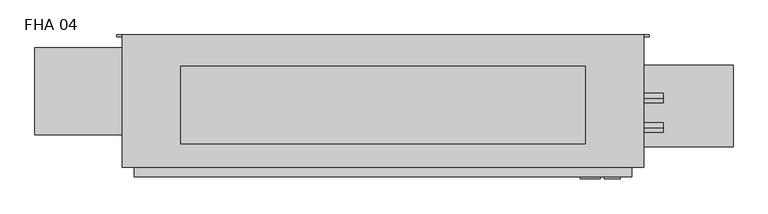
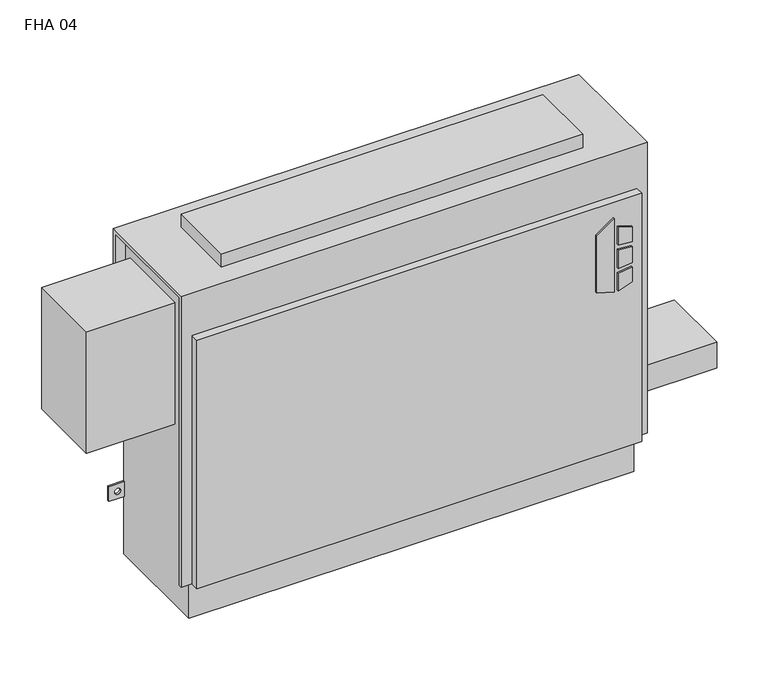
"""IFC4 building model written with IfcOpenShell, lengths in millimetres: proxy geometry, Vertical_Fan_Coil_Unit_-_FHA_-_IEC_-_2-Pipe_TS-FR_RH_2022 : FHA 04."""

from ifc_helpers import new_model, si_unit, point, frame, frame_2d, origin, place, context, project, spatial, polyline, circle_curve, trimmed, segment, composite_curve, outline, extrude, source, transform, mapped, element, save
from ifc_brep_helpers import plane_surface, revolved_surface, advanced_brep


def fha_04_8b7462a0(model_context):
    return source(origin(), model_context, "Body", "SolidModel", [
        extrude(outline(polyline([(391.6086829, 474.7368862), (381.6606126, 506.9102728), (523.831537, 506.9102728), (500.8095309, 474.7368862), (391.6086829, 474.7368862)])), frame((0.0, 9.525, 0.0), z_axis=(0.0, 1.0, 0.0), x_axis=(0.0, 0.0, 1.0)), (0.0, 0.0, 1.0), 3.175),
        extrude(outline(polyline([(470.6079683, 513.6686058), (467.4055757, 539.75), (496.6344168, 539.75), (504.6988318, 513.6686058), (470.6079683, 513.6686058)])), frame((0.0, 9.525, 0.0), z_axis=(0.0, 1.0, 0.0), x_axis=(0.0, 0.0, 1.0)), (0.0, 0.0, 1.0), 3.175),
        extrude(outline(polyline([(418.7444414, 539.75), (415.0789404, 513.6686058), (381.6606126, 513.6686058), (390.2948498, 539.75), (418.7444414, 539.75)])), frame((0.0, 9.525, 0.0), z_axis=(0.0, 1.0, 0.0), x_axis=(0.0, 0.0, 1.0)), (0.0, 0.0, 1.0), 3.175),
        extrude(outline(polyline([(458.0596028, 539.75), (460.3414292, 513.6686058), (424.4038806, 513.6686058), (427.1451456, 539.75), (458.0596028, 539.75)])), frame((0.0, 9.525, 0.0), z_axis=(0.0, 1.0, 0.0), x_axis=(0.0, 0.0, 1.0)), (0.0, 0.0, 1.0), 3.175),
        extrude(outline(composite_curve([segment(trimmed(circle_curve(frame_2d((622.3, 128.5875)), 9.525), [point((612.775, 128.5875))], [point((631.825, 128.5875))], False, "CARTESIAN"), True, "CONTINUOUS"), segment(trimmed(circle_curve(frame_2d((622.3, 128.5875)), 9.525), [point((631.825, 128.5875))], [point((612.775, 128.5875))], False, "CARTESIAN"), True, "CONTINUOUS")], self_intersect=False)), frame((0.0, 0.0, 101.6), z_axis=(0.0, 0.0, 1.0), x_axis=(1.0, 0.0, 0.0)), (0.0, 0.0, 1.0), 25.4),
        extrude(outline(polyline([(723.9, 195.2625), (723.9, 61.9125), (558.8, 61.9125), (558.8, 195.2625), (723.9, 195.2625)])), frame((0.0, 0.0, 127.0), z_axis=(0.0, 0.0, 1.0), x_axis=(1.0, 0.0, 0.0)), (0.0, 0.0, 1.0), 50.8),
        extrude(outline(polyline([(482.6, 193.675), (482.6, 66.675), (-177.8, 66.675), (-177.8, 193.675), (482.6, 193.675)])), frame((0.0, 0.0, 635.0), z_axis=(0.0, 0.0, 1.0), x_axis=(1.0, 0.0, 0.0)), (0.0, 0.0, 1.0), 25.4),
        extrude(outline(composite_curve([segment(trimmed(circle_curve(frame_2d((93.1926, 488.0102)), 7.9375), [point((93.1926, 480.0727))], [point((93.1926, 495.9477))], False, "CARTESIAN"), True, "CONTINUOUS"), segment(trimmed(circle_curve(frame_2d((93.1926, 488.0102)), 7.9375), [point((93.1926, 495.9477))], [point((93.1926, 480.0727))], False, "CARTESIAN"), True, "CONTINUOUS")], self_intersect=False)), frame((558.8, 0.0, 0.0), z_axis=(1.0, 0.0, 0.0), x_axis=(0.0, 1.0, 0.0)), (0.0, 0.0, 1.0), 50.8),
        extrude(outline(composite_curve([segment(trimmed(circle_curve(frame_2d((141.3002, 461.3402)), 7.9375), [point((141.3002, 453.4027))], [point((141.3002, 469.2777))], False, "CARTESIAN"), True, "CONTINUOUS"), segment(trimmed(circle_curve(frame_2d((141.3002, 461.3402)), 7.9375), [point((141.3002, 469.2777))], [point((141.3002, 453.4027))], False, "CARTESIAN"), True, "CONTINUOUS")], self_intersect=False)), frame((558.8, 0.0, 0.0), z_axis=(1.0, 0.0, 0.0), x_axis=(0.0, 1.0, 0.0)), (0.0, 0.0, 1.0), 50.8),
        extrude(outline(polyline([(-415.925, 223.266), (-254.0, 223.266), (-254.0, 81.534), (-415.925, 81.534), (-415.925, 223.266)])), frame((0.0, 0.0, 349.25), z_axis=(0.0, 0.0, 1.0), x_axis=(1.0, 0.0, 0.0)), (0.0, 0.0, 1.0), 234.95),
        advanced_brep(
        [(577.85, 244.475, 635.0), (-273.05, 244.475, 635.0), (-273.05, 28.575, 635.0), (577.85, 28.575, 635.0), (-254.0, 244.475, 0.0), (558.8, 244.475, 0.0), (558.8, 38.1, 0.0), (-254.0, 38.1, 0.0), (577.85, 244.475, 558.8), (558.8, 244.475, 558.8), (558.8, 244.475, 414.3375), (587.375, 244.475, 414.3375), (587.375, 244.475, 385.7625), (558.8, 244.475, 385.7625), (558.8, 244.475, 287.3375), (587.375, 244.475, 287.3375), (587.375, 244.475, 258.7625), (558.8, 244.475, 258.7625), (558.8, 244.475, 141.2875), (587.375, 244.475, 141.2875), (587.375, 244.475, 112.7125), (558.8, 244.475, 112.7125), (-254.0, 244.475, 112.7125), (-282.575, 244.475, 112.7125), (-282.575, 244.475, 141.2875), (-254.0, 244.475, 141.2875), (-254.0, 244.475, 258.7625), (-282.575, 244.475, 258.7625), (-282.575, 244.475, 287.3375), (-254.0, 244.475, 287.3375), (-254.0, 244.475, 385.7625), (-282.575, 244.475, 385.7625), (-282.575, 244.475, 414.3375), (-254.0, 244.475, 414.3375), (-254.0, 244.475, 558.8), (-273.05, 244.475, 558.8), (577.0626, 244.475, 127.0), (565.9374, 244.475, 127.0), (-261.1374, 244.475, 127.0), (-272.2626, 244.475, 127.0), (577.0626, 244.475, 273.05), (565.9374, 244.475, 273.05), (-261.1374, 244.475, 273.05), (-272.2626, 244.475, 273.05), (577.0626, 244.475, 400.05), (565.9374, 244.475, 400.05), (-261.1374, 244.475, 400.05), (-272.2626, 244.475, 400.05), (-273.05, 238.125, 558.8), (-273.05, 238.125, 628.65), (-273.05, 34.925, 628.65), (-273.05, 34.925, 73.025), (-273.05, 28.575, 73.025), (558.8, 12.7, 552.45), (-254.0, 12.7, 552.45), (-254.0, 12.7, 73.025), (558.8, 12.7, 73.025), (577.85, 28.575, 73.025), (577.85, 34.925, 73.025), (577.85, 34.925, 628.65), (577.85, 238.125, 628.65), (577.85, 238.125, 558.8), (-254.0, 28.575, 73.025), (-254.0, 28.575, 552.45), (558.8, 28.575, 552.45), (558.8, 28.575, 73.025), (-254.0, 34.925, 73.025), (-254.0, 38.1, 73.025), (558.8, 38.1, 73.025), (558.8, 34.925, 73.025), (558.8, 241.3, 112.7125), (558.8, 241.3, 141.2875), (558.8, 241.3, 258.7625), (558.8, 241.3, 287.3375), (558.8, 241.3, 385.7625), (558.8, 241.3, 414.3375), (558.8, 238.125, 558.8), (558.8, 238.125, 628.65), (558.8, 34.925, 628.65), (-254.0, 34.925, 628.65), (-254.0, 238.125, 628.65), (-254.0, 238.125, 558.8), (-254.0, 241.3, 414.3375), (-254.0, 241.3, 385.7625), (-254.0, 241.3, 287.3375), (-254.0, 241.3, 258.7625), (-254.0, 241.3, 141.2875), (-254.0, 241.3, 112.7125), (587.375, 241.3, 112.7125), (587.375, 241.3, 141.2875), (565.9374, 241.3, 127.0), (577.0626, 241.3, 127.0), (587.375, 241.3, 258.7625), (587.375, 241.3, 287.3375), (565.9374, 241.3, 273.05), (577.0626, 241.3, 273.05), (587.375, 241.3, 385.7625), (587.375, 241.3, 414.3375), (565.9374, 241.3, 400.05), (577.0626, 241.3, 400.05), (-282.575, 241.3, 141.2875), (-282.575, 241.3, 112.7125), (-272.2626, 241.3, 127.0), (-261.1374, 241.3, 127.0), (-282.575, 241.3, 287.3375), (-282.575, 241.3, 258.7625), (-272.2626, 241.3, 273.05), (-261.1374, 241.3, 273.05), (-282.575, 241.3, 414.3375), (-282.575, 241.3, 385.7625), (-272.2626, 241.3, 400.05), (-261.1374, 241.3, 400.05)],
        [
            (0, 1),
            (1, 2),
            (2, 3),
            (3, 0),
            (4, 5),
            (5, 6),
            (6, 7),
            (7, 4),
            (0, 8),
            (8, 9),
            (9, 10),
            (10, 11),
            (11, 12),
            (12, 13),
            (13, 14),
            (14, 15),
            (15, 16),
            (16, 17),
            (17, 18),
            (18, 19),
            (19, 20),
            (20, 21),
            (21, 5),
            (4, 22),
            (22, 23),
            (23, 24),
            (24, 25),
            (25, 26),
            (26, 27),
            (27, 28),
            (28, 29),
            (29, 30),
            (30, 31),
            (31, 32),
            (32, 33),
            (33, 34),
            (34, 35),
            (35, 1),
            (36, 37, circle_curve(frame((571.5, 244.475, 127.0), z_axis=(0.0, -1.0, 0.0), x_axis=(-1.0, 0.0, 0.0)), 5.5626)),
            (37, 36, circle_curve(frame((571.5, 244.475, 127.0), z_axis=(0.0, -1.0, 0.0), x_axis=(-1.0, 0.0, 0.0)), 5.5626)),
            (38, 39, circle_curve(frame((-266.7, 244.475, 127.0), z_axis=(0.0, -1.0, 0.0), x_axis=(-1.0, 0.0, 0.0)), 5.5626)),
            (39, 38, circle_curve(frame((-266.7, 244.475, 127.0), z_axis=(0.0, -1.0, 0.0), x_axis=(-1.0, 0.0, 0.0)), 5.5626)),
            (40, 41, circle_curve(frame((571.5, 244.475, 273.05), z_axis=(0.0, -1.0, 0.0), x_axis=(-1.0, 0.0, 0.0)), 5.5626)),
            (41, 40, circle_curve(frame((571.5, 244.475, 273.05), z_axis=(0.0, -1.0, 0.0), x_axis=(-1.0, 0.0, 0.0)), 5.5626)),
            (42, 43, circle_curve(frame((-266.7, 244.475, 273.05), z_axis=(0.0, -1.0, 0.0), x_axis=(-1.0, 0.0, 0.0)), 5.5626)),
            (43, 42, circle_curve(frame((-266.7, 244.475, 273.05), z_axis=(0.0, -1.0, 0.0), x_axis=(-1.0, 0.0, 0.0)), 5.5626)),
            (44, 45, circle_curve(frame((571.5, 244.475, 400.05), z_axis=(0.0, -1.0, 0.0), x_axis=(-1.0, 0.0, 0.0)), 5.5626)),
            (45, 44, circle_curve(frame((571.5, 244.475, 400.05), z_axis=(0.0, -1.0, 0.0), x_axis=(-1.0, 0.0, 0.0)), 5.5626)),
            (46, 47, circle_curve(frame((-266.7, 244.475, 400.05), z_axis=(0.0, -1.0, 0.0), x_axis=(-1.0, 0.0, 0.0)), 5.5626)),
            (47, 46, circle_curve(frame((-266.7, 244.475, 400.05), z_axis=(0.0, -1.0, 0.0), x_axis=(-1.0, 0.0, 0.0)), 5.5626)),
            (35, 48),
            (48, 49),
            (49, 50),
            (50, 51),
            (51, 52),
            (52, 2),
            (53, 54),
            (54, 55),
            (55, 56),
            (56, 53),
            (3, 57),
            (57, 58),
            (58, 59),
            (59, 60),
            (60, 61),
            (61, 8),
            (52, 62),
            (62, 63),
            (63, 64),
            (64, 65),
            (65, 57),
            (53, 64),
            (63, 54),
            (55, 62),
            (51, 66),
            (66, 67),
            (67, 68),
            (68, 69),
            (69, 58),
            (65, 56),
            (6, 68),
            (67, 7),
            (21, 70),
            (70, 71),
            (71, 18),
            (17, 72),
            (72, 73),
            (73, 14),
            (13, 74),
            (74, 75),
            (75, 10),
            (9, 76),
            (76, 77),
            (77, 78),
            (78, 69),
            (66, 79),
            (79, 80),
            (80, 81),
            (81, 34),
            (33, 82),
            (82, 83),
            (83, 30),
            (29, 84),
            (84, 85),
            (85, 26),
            (25, 86),
            (86, 87),
            (87, 22),
            (76, 61),
            (60, 77),
            (78, 59),
            (50, 79),
            (81, 48),
            (80, 49),
            (70, 88),
            (88, 89),
            (89, 71),
            (90, 91, circle_curve(frame((571.5, 241.3, 127.0), z_axis=(0.0, 1.0, 0.0), x_axis=(-1.0, 0.0, 0.0)), 5.5626)),
            (91, 90, circle_curve(frame((571.5, 241.3, 127.0), z_axis=(0.0, 1.0, 0.0), x_axis=(-1.0, 0.0, 0.0)), 5.5626)),
            (92, 93),
            (93, 73),
            (72, 92),
            (94, 95, circle_curve(frame((571.5, 241.3, 273.05), z_axis=(0.0, 1.0, 0.0), x_axis=(-1.0, 0.0, 0.0)), 5.5626)),
            (95, 94, circle_curve(frame((571.5, 241.3, 273.05), z_axis=(0.0, 1.0, 0.0), x_axis=(-1.0, 0.0, 0.0)), 5.5626)),
            (96, 97),
            (97, 75),
            (74, 96),
            (98, 99, circle_curve(frame((571.5, 241.3, 400.05), z_axis=(0.0, 1.0, 0.0), x_axis=(-1.0, 0.0, 0.0)), 5.5626)),
            (99, 98, circle_curve(frame((571.5, 241.3, 400.05), z_axis=(0.0, 1.0, 0.0), x_axis=(-1.0, 0.0, 0.0)), 5.5626)),
            (100, 101),
            (101, 87),
            (86, 100),
            (102, 103, circle_curve(frame((-266.7, 241.3, 127.0), z_axis=(0.0, 1.0, 0.0), x_axis=(-1.0, 0.0, 0.0)), 5.5626)),
            (103, 102, circle_curve(frame((-266.7, 241.3, 127.0), z_axis=(0.0, 1.0, 0.0), x_axis=(-1.0, 0.0, 0.0)), 5.5626)),
            (84, 104),
            (104, 105),
            (105, 85),
            (106, 107, circle_curve(frame((-266.7, 241.3, 273.05), z_axis=(0.0, 1.0, 0.0), x_axis=(-1.0, 0.0, 0.0)), 5.5626)),
            (107, 106, circle_curve(frame((-266.7, 241.3, 273.05), z_axis=(0.0, 1.0, 0.0), x_axis=(-1.0, 0.0, 0.0)), 5.5626)),
            (108, 109),
            (109, 83),
            (82, 108),
            (110, 111, circle_curve(frame((-266.7, 241.3, 400.05), z_axis=(0.0, 1.0, 0.0), x_axis=(-1.0, 0.0, 0.0)), 5.5626)),
            (111, 110, circle_curve(frame((-266.7, 241.3, 400.05), z_axis=(0.0, 1.0, 0.0), x_axis=(-1.0, 0.0, 0.0)), 5.5626)),
            (89, 19),
            (88, 20),
            (16, 92),
            (93, 15),
            (12, 96),
            (97, 11),
            (24, 100),
            (101, 23),
            (105, 27),
            (104, 28),
            (32, 108),
            (109, 31),
            (90, 37),
            (36, 91),
            (102, 39),
            (38, 103),
            (94, 41),
            (40, 95),
            (106, 43),
            (42, 107),
            (98, 45),
            (44, 99),
            (110, 47),
            (46, 111),
        ],
        [
            plane_surface(frame((-273.05, 244.475, 635.0), z_axis=(0.0, 0.0, 1.0), x_axis=(-1.0, 0.0, 0.0))),
            plane_surface(frame((-273.05, 244.475, 0.0), z_axis=(0.0, 0.0, -1.0), x_axis=(1.0, 0.0, 0.0))),
            plane_surface(frame((577.85, 244.475, 635.0), z_axis=(0.0, 1.0, 0.0), x_axis=(0.0, 0.0, -1.0))),
            plane_surface(frame((-273.05, 244.475, 635.0), z_axis=(-1.0, 0.0, 0.0), x_axis=(0.0, 0.0, -1.0))),
            plane_surface(frame((-273.05, 12.7, 635.0), z_axis=(0.0, -1.0, 0.0), x_axis=(0.0, 0.0, -1.0))),
            plane_surface(frame((577.85, 12.7, 635.0), z_axis=(1.0, 0.0, 0.0), x_axis=(0.0, 0.0, -1.0))),
            plane_surface(frame((-400.05, 28.575, 635.0), z_axis=(0.0, -1.0, 0.0), x_axis=(1.0, 0.0, 0.0))),
            plane_surface(frame((-400.05, 28.575, 552.45), z_axis=(0.0, 0.0, 1.0), x_axis=(1.0, 0.0, 0.0))),
            plane_surface(frame((-273.05, 12.7, 73.025), z_axis=(0.0, 0.0, -1.0), x_axis=(1.0, 0.0, 0.0))),
            plane_surface(frame((-273.05, 38.1, 73.025), z_axis=(0.0, -1.0, 0.0), x_axis=(1.0, 0.0, 0.0))),
            plane_surface(frame((558.8, 28.575, 73.025), z_axis=(1.0, 0.0, 0.0), x_axis=(0.0, -1.0, 0.0))),
            plane_surface(frame((-254.0, 28.575, 552.45), z_axis=(-1.0, 0.0, 0.0), x_axis=(0.0, -1.0, 0.0))),
            plane_surface(frame((558.8, 244.475, 0.0), z_axis=(1.0, 0.0, 0.0), x_axis=(0.0, -1.0, 0.0))),
            plane_surface(frame((-254.0, 244.475, 73.025), z_axis=(-1.0, 0.0, 0.0), x_axis=(0.0, -1.0, 0.0))),
            plane_surface(frame((558.8, 238.125, 628.65), z_axis=(0.0, -1.0, 0.0), x_axis=(1.0, 0.0, 0.0))),
            plane_surface(frame((558.8, 238.125, 558.8), z_axis=(0.0, 0.0, -1.0), x_axis=(1.0, 0.0, 0.0))),
            plane_surface(frame((558.8, 34.925, 73.025), z_axis=(0.0, 1.0, 0.0), x_axis=(1.0, 0.0, 0.0))),
            plane_surface(frame((558.8, 34.925, 628.65), z_axis=(0.0, 0.0, -1.0), x_axis=(1.0, 0.0, 0.0))),
            plane_surface(frame((-254.0, 34.925, 628.65), z_axis=(0.0, 1.0, 0.0), x_axis=(-1.0, 0.0, 0.0))),
            plane_surface(frame((-254.0, 244.475, 558.8), z_axis=(0.0, 0.0, -1.0), x_axis=(-1.0, 0.0, 0.0))),
            plane_surface(frame((-254.0, 238.125, 558.8), z_axis=(0.0, -1.0, 0.0), x_axis=(-1.0, 0.0, 0.0))),
            plane_surface(frame((-254.0, 238.125, 628.65), z_axis=(0.0, 0.0, -1.0), x_axis=(-1.0, 0.0, 0.0))),
            plane_surface(frame((587.375, 241.3, 141.2875), z_axis=(0.0, -1.0, 0.0), x_axis=(-1.0, 0.0, 0.0))),
            plane_surface(frame((558.8, 244.475, 141.2875), z_axis=(0.0, 0.0, 1.0), x_axis=(0.0, -1.0, 0.0))),
            plane_surface(frame((587.375, 244.475, 141.2875), z_axis=(1.0, 0.0, 0.0), x_axis=(0.0, -1.0, 0.0))),
            plane_surface(frame((587.375, 244.475, 112.7125), z_axis=(0.0, 0.0, -1.0), x_axis=(0.0, -1.0, 0.0))),
            plane_surface(frame((587.375, 244.475, 258.7625), z_axis=(0.0, 0.0, -1.0), x_axis=(0.0, -1.0, 0.0))),
            plane_surface(frame((558.8, 244.475, 287.3375), z_axis=(0.0, 0.0, 1.0), x_axis=(0.0, -1.0, 0.0))),
            plane_surface(frame((587.375, 244.475, 287.3375), z_axis=(1.0, 0.0, 0.0), x_axis=(0.0, -1.0, 0.0))),
            plane_surface(frame((587.375, 244.475, 385.7625), z_axis=(0.0, 0.0, -1.0), x_axis=(0.0, -1.0, 0.0))),
            plane_surface(frame((558.8, 244.475, 414.3375), z_axis=(0.0, 0.0, 1.0), x_axis=(0.0, -1.0, 0.0))),
            plane_surface(frame((587.375, 244.475, 414.3375), z_axis=(1.0, 0.0, 0.0), x_axis=(0.0, -1.0, 0.0))),
            plane_surface(frame((-282.575, 244.475, 141.2875), z_axis=(0.0, 0.0, 1.0), x_axis=(0.0, -1.0, 0.0))),
            plane_surface(frame((-254.0, 244.475, 112.7125), z_axis=(0.0, 0.0, -1.0), x_axis=(0.0, -1.0, 0.0))),
            plane_surface(frame((-282.575, 244.475, 112.7125), z_axis=(-1.0, 0.0, 0.0), x_axis=(0.0, -1.0, 0.0))),
            plane_surface(frame((-254.0, 244.475, 258.7625), z_axis=(0.0, 0.0, -1.0), x_axis=(0.0, -1.0, 0.0))),
            plane_surface(frame((-282.575, 244.475, 258.7625), z_axis=(-1.0, 0.0, 0.0), x_axis=(0.0, -1.0, 0.0))),
            plane_surface(frame((-282.575, 244.475, 287.3375), z_axis=(0.0, 0.0, 1.0), x_axis=(0.0, -1.0, 0.0))),
            plane_surface(frame((-282.575, 244.475, 414.3375), z_axis=(0.0, 0.0, 1.0), x_axis=(0.0, -1.0, 0.0))),
            plane_surface(frame((-254.0, 244.475, 385.7625), z_axis=(0.0, 0.0, -1.0), x_axis=(0.0, -1.0, 0.0))),
            plane_surface(frame((-282.575, 244.475, 385.7625), z_axis=(-1.0, 0.0, 0.0), x_axis=(0.0, -1.0, 0.0))),
            revolved_surface(polyline([(565.9374, 241.3, 127.0), (565.9374, 244.475, 127.0)]), (571.5, 244.475, 127.0), (0.0, -1.0, 0.0)),
            revolved_surface(polyline([(-272.26259999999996, 241.3, 127.0), (-272.26259999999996, 244.475, 127.0)]), (-266.7, 244.475, 127.0), (0.0, -1.0, 0.0)),
            revolved_surface(polyline([(565.9374, 241.3, 273.05), (565.9374, 244.475, 273.05)]), (571.5, 244.475, 273.05), (0.0, -1.0, 0.0)),
            revolved_surface(polyline([(-272.26259999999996, 241.3, 273.05), (-272.26259999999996, 244.475, 273.05)]), (-266.7, 244.475, 273.05), (0.0, -1.0, 0.0)),
            revolved_surface(polyline([(565.9374, 241.3, 400.05), (565.9374, 244.475, 400.05)]), (571.5, 244.475, 400.05), (0.0, -1.0, 0.0)),
            revolved_surface(polyline([(-272.26259999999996, 241.3, 400.05), (-272.26259999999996, 244.475, 400.05)]), (-266.7, 244.475, 400.05), (0.0, -1.0, 0.0)),
        ],
        [
            (0, [[1, 2, 3, 4]]),
            (1, [[5, 6, 7, 8]]),
            (2, [[-1, 9, 10, 11, 12, 13, 14, 15, 16, 17, 18, 19, 20, 21, 22, 23, -5, 24, 25, 26, 27, 28, 29, 30, 31, 32, 33, 34, 35, 36, 37, 38], [39, 40], [41, 42], [43, 44], [45, 46], [47, 48], [49, 50]]),
            (3, [[-2, -38, 51, 52, 53, 54, 55, 56]]),
            (4, [[57, 58, 59, 60]]),
            (5, [[-4, 61, 62, 63, 64, 65, 66, -9]]),
            (6, [[-3, -56, 67, 68, 69, 70, 71, -61]]),
            (7, [[-57, 72, -69, 73]]),
            (8, [[-59, 74, -67, -55, 75, 76, 77, 78, 79, -62, -71, 80]]),
            (9, [[-7, 81, -77, 82]]),
            (10, [[-70, -72, -60, -80]]),
            (11, [[-68, -74, -58, -73]]),
            (12, [[-6, -23, 83, 84, 85, -19, 86, 87, 88, -15, 89, 90, 91, -11, 92, 93, 94, 95, -78, -81]]),
            (13, [[-8, -82, -76, 96, 97, 98, 99, -36, 100, 101, 102, -32, 103, 104, 105, -28, 106, 107, 108, -24]]),
            (14, [[-93, 109, -65, 110]]),
            (15, [[-92, -10, -66, -109]]),
            (16, [[-95, 111, -63, -79]]),
            (17, [[-94, -110, -64, -111]]),
            (18, [[-96, -75, -54, 112]]),
            (19, [[-99, 113, -51, -37]]),
            (20, [[-98, 114, -52, -113]]),
            (21, [[-97, -112, -53, -114]]),
            (22, [[115, 116, 117, -84], [118, 119]]),
            (22, [[120, 121, -87, 122], [123, 124]]),
            (22, [[125, 126, -90, 127], [128, 129]]),
            (22, [[130, 131, -107, 132], [133, 134]]),
            (22, [[135, 136, 137, -104], [138, 139]]),
            (22, [[140, 141, -101, 142], [143, 144]]),
            (23, [[-117, 145, -20, -85]]),
            (24, [[-116, 146, -21, -145]]),
            (25, [[-115, -83, -22, -146]]),
            (26, [[-122, -86, -18, 147]]),
            (27, [[-121, 148, -16, -88]]),
            (28, [[-120, -147, -17, -148]]),
            (29, [[-127, -89, -14, 149]]),
            (30, [[-126, 150, -12, -91]]),
            (31, [[-125, -149, -13, -150]]),
            (32, [[-132, -106, -27, 151]]),
            (33, [[-131, 152, -25, -108]]),
            (34, [[-130, -151, -26, -152]]),
            (35, [[-137, 153, -29, -105]]),
            (36, [[-136, 154, -30, -153]]),
            (37, [[-135, -103, -31, -154]]),
            (38, [[-142, -100, -35, 155]]),
            (39, [[-141, 156, -33, -102]]),
            (40, [[-140, -155, -34, -156]]),
            (41, [[157, -39, 158, -118]]),
            (41, [[-157, -119, -158, -40]]),
            (42, [[159, -41, 160, -133]]),
            (42, [[-159, -134, -160, -42]]),
            (43, [[161, -43, 162, -123]]),
            (43, [[-161, -124, -162, -44]]),
            (44, [[163, -45, 164, -138]]),
            (44, [[-163, -139, -164, -46]]),
            (45, [[165, -47, 166, -128]]),
            (45, [[-165, -129, -166, -48]]),
            (46, [[167, -49, 168, -143]]),
            (46, [[-167, -144, -168, -50]]),
        ],
    ),
    ])


if __name__ == "__main__":
    model = new_model("IFC4")
    model_context = context("Model", 3, world=origin())
    ifc_project = project(units=[si_unit("LENGTHUNIT", "METRE", prefix="MILLI")], contexts=[model_context])
    site = spatial("IfcSite", under=ifc_project)
    building = spatial("IfcBuilding", under=site)
    placement = place(None, origin())
    fha_04_shape = fha_04_8b7462a0(model_context)
    element("IfcBuildingElementProxy", 1, Name="Vertical_Fan_Coil_Unit_-_FHA_-_IEC_-_2-Pipe_TS-FR_RH_2022 : FHA 04", ObjectType="Vertical_Fan_Coil_Unit_-_FHA_-_IEC_-_2-Pipe_TS-FR_RH_2022 : FHA 04", at=placement, inside=building, context=model_context, shape_type="MappedRepresentation", body=[
        mapped(fha_04_shape, transform((0.0, 0.0, 0.0), x_axis=(1.0, 0.0, 0.0), y_axis=(0.0, 1.0, 0.0), z_axis=(0.0, 0.0, 1.0))),
    ])
    save(model, "model.ifc")
